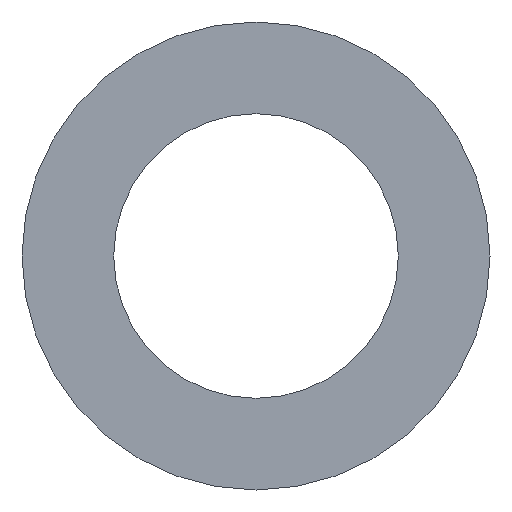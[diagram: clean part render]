
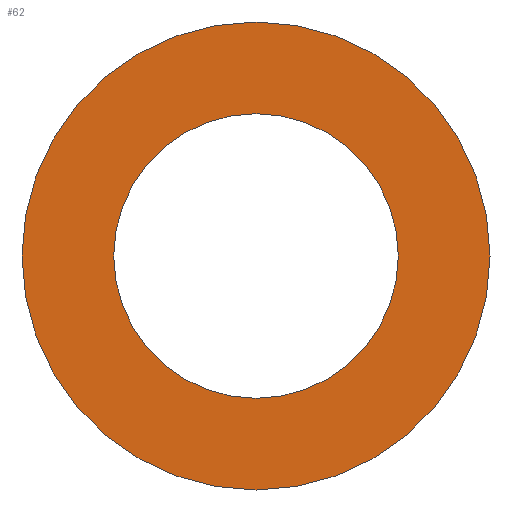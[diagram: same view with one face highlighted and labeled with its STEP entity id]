
A CAD part, front view. The second image highlights one B-rep face of the part: STEP entity #62.
In plain terms, the highlighted planar face has unit normal (0, -1, 0).
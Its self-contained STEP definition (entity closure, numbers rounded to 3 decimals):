
#20=PLANE('',#83);
#26=ORIENTED_EDGE('',*,*,#30,.T.);
#27=ORIENTED_EDGE('',*,*,#32,.F.);
#30=EDGE_CURVE('',#34,#34,#38,.T.);
#32=EDGE_CURVE('',#36,#36,#40,.T.);
#34=VERTEX_POINT('',#106);
#36=VERTEX_POINT('',#111);
#38=CIRCLE('',#78,83.);
#40=CIRCLE('',#81,136.5);
#46=EDGE_LOOP('',(#26));
#47=EDGE_LOOP('',(#27));
#54=FACE_BOUND('',#46,.T.);
#55=FACE_BOUND('',#47,.T.);
#62=ADVANCED_FACE('',(#54,#55),#20,.F.);
#78=AXIS2_PLACEMENT_3D('',#105,#89,#90);
#81=AXIS2_PLACEMENT_3D('',#110,#95,#96);
#83=AXIS2_PLACEMENT_3D('',#114,#99,#100);
#89=DIRECTION('',(0.,1.,0.));
#90=DIRECTION('',(1.,0.,0.));
#95=DIRECTION('',(0.,1.,0.));
#96=DIRECTION('',(1.,0.,0.));
#99=DIRECTION('',(0.,1.,0.));
#100=DIRECTION('',(0.,0.,1.));
#105=CARTESIAN_POINT('',(0.,-1.5,0.));
#106=CARTESIAN_POINT('',(83.,-1.5,0.));
#110=CARTESIAN_POINT('',(0.,-1.5,0.));
#111=CARTESIAN_POINT('',(136.5,-1.5,0.));
#114=CARTESIAN_POINT('',(0.,-1.5,0.));
